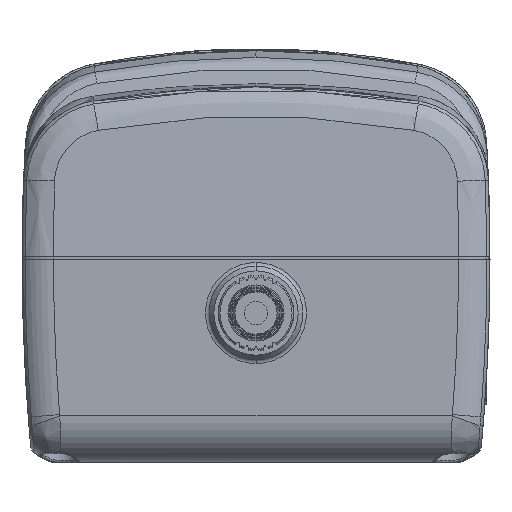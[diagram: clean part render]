
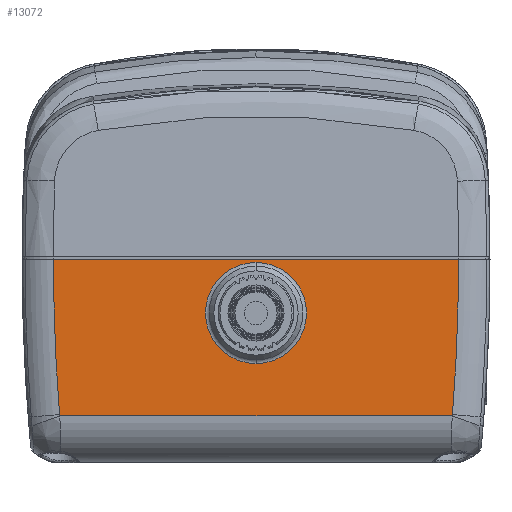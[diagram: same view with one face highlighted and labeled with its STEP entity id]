
A CAD part, front view. The second image highlights one B-rep face of the part: STEP entity #13072.
In plain terms, the highlighted planar face has unit normal (0, -1, 0).
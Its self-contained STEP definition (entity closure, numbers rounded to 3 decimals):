
#506 = CARTESIAN_POINT ( 'NONE',  ( -274.622, -296.611, 231.448 ) ) ;
#783 = CIRCLE ( 'NONE', #14651, 10.806 ) ;
#817 = CARTESIAN_POINT ( 'NONE',  ( -366.595, -296.611, 198.191 ) ) ;
#1721 = CARTESIAN_POINT ( 'NONE',  ( -274.622, -296.611, 194.948 ) ) ;
#2096 = VERTEX_POINT ( 'NONE', #25652 ) ;
#2526 = DIRECTION ( 'NONE',  ( 0., 0., 1. ) ) ;
#3160 = EDGE_CURVE ( 'NONE', #30360, #2096, #20760, .T. ) ;
#3889 = CARTESIAN_POINT ( 'NONE',  ( -324.622, -296.611, 219.948 ) ) ;
#4160 = DIRECTION ( 'NONE',  ( 0., 1., 0. ) ) ;
#4988 = DIRECTION ( 'NONE',  ( 0., 0., 1. ) ) ;
#5815 = CARTESIAN_POINT ( 'NONE',  ( -704.622, -296.611, 231.448 ) ) ;
#7131 = VERTEX_POINT ( 'NONE', #21889 ) ;
#7136 = DIRECTION ( 'NONE',  ( 0., 0., 1. ) ) ;
#7345 = CARTESIAN_POINT ( 'NONE',  ( -366.591, -296.611, 198.141 ) ) ;
#7629 = EDGE_CURVE ( 'NONE', #26671, #39954, #25548, .T. ) ;
#7711 = VERTEX_POINT ( 'NONE', #38202 ) ;
#7784 = FACE_OUTER_BOUND ( 'NONE', #19184, .T. ) ;
#9037 = DIRECTION ( 'NONE',  ( 0., 0., 1. ) ) ;
#9269 = CARTESIAN_POINT ( 'NONE',  ( -282.687, -296.611, 197.996 ) ) ;
#9674 = CARTESIAN_POINT ( 'NONE',  ( -282.673, -296.611, 198.044 ) ) ;
#10160 = CARTESIAN_POINT ( 'NONE',  ( -366.599, -296.611, 198.241 ) ) ;
#10563 = CARTESIAN_POINT ( 'NONE',  ( -366.556, -296.611, 197.996 ) ) ;
#11247 = ORIENTED_EDGE ( 'NONE', *, *, #18470, .T. ) ;
#12421 = VERTEX_POINT ( 'NONE', #37190 ) ;
#12702 = CARTESIAN_POINT ( 'NONE',  ( -274.622, -296.611, 197.948 ) ) ;
#12908 = CARTESIAN_POINT ( 'NONE',  ( -282.648, -296.611, 198.191 ) ) ;
#13072 = ADVANCED_FACE ( 'NONE', ( #16302, #7784 ), #17497, .F. ) ;
#13646 = EDGE_CURVE ( 'NONE', #33864, #30360, #23414, .T. ) ;
#14651 = AXIS2_PLACEMENT_3D ( 'NONE', #23418, #4160, #26680 ) ;
#15708 = EDGE_LOOP ( 'NONE', ( #32758, #11247 ) ) ;
#15941 = DIRECTION ( 'NONE',  ( 1., 0., 0. ) ) ;
#16302 = FACE_BOUND ( 'NONE', #15708, .T. ) ;
#17497 = PLANE ( 'NONE',  #33833 ) ;
#17701 = LINE ( 'NONE', #506, #26269 ) ;
#18470 = EDGE_CURVE ( 'NONE', #7131, #7711, #39820, .T. ) ;
#18645 = AXIS2_PLACEMENT_3D ( 'NONE', #3889, #26412, #7136 ) ;
#19184 = EDGE_LOOP ( 'NONE', ( #38007, #23614, #21651, #38967, #36898, #26573 ) ) ;
#19898 = EDGE_CURVE ( 'NONE', #7711, #7131, #783, .T. ) ;
#19914 = DIRECTION ( 'NONE',  ( -1., 0., 0. ) ) ;
#20638 = EDGE_CURVE ( 'NONE', #12421, #26671, #26462, .T. ) ;
#20760 = B_SPLINE_CURVE_WITH_KNOTS ( 'NONE', 3,
 ( #23347, #817, #7345, #29860, #10563, #33129 ),
 .UNSPECIFIED., .F., .F.,
 ( 4, 2, 4 ),
 ( 0., 0., 0. ),
 .UNSPECIFIED. ) ;
#21651 = ORIENTED_EDGE ( 'NONE', *, *, #13646, .T. ) ;
#21806 = DIRECTION ( 'NONE',  ( 0., -1., 0. ) ) ;
#21889 = CARTESIAN_POINT ( 'NONE',  ( -324.622, -296.611, 209.142 ) ) ;
#23347 = CARTESIAN_POINT ( 'NONE',  ( -366.599, -296.611, 198.241 ) ) ;
#23414 = CIRCLE ( 'NONE', #40077, 423.282 ) ;
#23418 = CARTESIAN_POINT ( 'NONE',  ( -324.622, -296.611, 219.948 ) ) ;
#23614 = ORIENTED_EDGE ( 'NONE', *, *, #36810, .T. ) ;
#24250 = DIRECTION ( 'NONE',  ( 0., 1., 0. ) ) ;
#25548 = CIRCLE ( 'NONE', #37445, 423.282 ) ;
#25652 = CARTESIAN_POINT ( 'NONE',  ( -366.539, -296.611, 197.948 ) ) ;
#26269 = VECTOR ( 'NONE', #19914, 1000. ) ;
#26412 = DIRECTION ( 'NONE',  ( 0., 1., 0. ) ) ;
#26462 = B_SPLINE_CURVE_WITH_KNOTS ( 'NONE', 3,
 ( #35311, #9269, #9674, #32214, #12908, #35451 ),
 .UNSPECIFIED., .F., .F.,
 ( 4, 2, 4 ),
 ( 0., 0., 0. ),
 .UNSPECIFIED. ) ;
#26573 = ORIENTED_EDGE ( 'NONE', *, *, #20638, .T. ) ;
#26671 = VERTEX_POINT ( 'NONE', #35991 ) ;
#26680 = DIRECTION ( 'NONE',  ( 0., 0., 1. ) ) ;
#27434 = VECTOR ( 'NONE', #15941, 1000. ) ;
#28319 = DIRECTION ( 'NONE',  ( 0., -1., 0. ) ) ;
#29860 = CARTESIAN_POINT ( 'NONE',  ( -366.57, -296.611, 198.043 ) ) ;
#30360 = VERTEX_POINT ( 'NONE', #10160 ) ;
#30563 = CARTESIAN_POINT ( 'NONE',  ( -367.904, -296.611, 231.448 ) ) ;
#32214 = CARTESIAN_POINT ( 'NONE',  ( -282.652, -296.611, 198.141 ) ) ;
#32758 = ORIENTED_EDGE ( 'NONE', *, *, #19898, .T. ) ;
#33129 = CARTESIAN_POINT ( 'NONE',  ( -366.539, -296.611, 197.948 ) ) ;
#33833 = AXIS2_PLACEMENT_3D ( 'NONE', #1721, #24250, #4988 ) ;
#33864 = VERTEX_POINT ( 'NONE', #30563 ) ;
#35311 = CARTESIAN_POINT ( 'NONE',  ( -282.704, -296.611, 197.948 ) ) ;
#35451 = CARTESIAN_POINT ( 'NONE',  ( -282.644, -296.611, 198.241 ) ) ;
#35991 = CARTESIAN_POINT ( 'NONE',  ( -282.644, -296.611, 198.241 ) ) ;
#36810 = EDGE_CURVE ( 'NONE', #39954, #33864, #17701, .T. ) ;
#36898 = ORIENTED_EDGE ( 'NONE', *, *, #39833, .T. ) ;
#37026 = LINE ( 'NONE', #12702, #27434 ) ;
#37190 = CARTESIAN_POINT ( 'NONE',  ( -282.704, -296.611, 197.948 ) ) ;
#37445 = AXIS2_PLACEMENT_3D ( 'NONE', #5815, #28319, #9037 ) ;
#38007 = ORIENTED_EDGE ( 'NONE', *, *, #7629, .T. ) ;
#38202 = CARTESIAN_POINT ( 'NONE',  ( -324.622, -296.611, 230.754 ) ) ;
#38967 = ORIENTED_EDGE ( 'NONE', *, *, #3160, .T. ) ;
#39333 = CARTESIAN_POINT ( 'NONE',  ( -281.339, -296.611, 231.448 ) ) ;
#39820 = CIRCLE ( 'NONE', #18645, 10.806 ) ;
#39833 = EDGE_CURVE ( 'NONE', #2096, #12421, #37026, .T. ) ;
#39954 = VERTEX_POINT ( 'NONE', #39333 ) ;
#40077 = AXIS2_PLACEMENT_3D ( 'NONE', #41163, #21806, #2526 ) ;
#41163 = CARTESIAN_POINT ( 'NONE',  ( 55.378, -296.611, 231.448 ) ) ;
